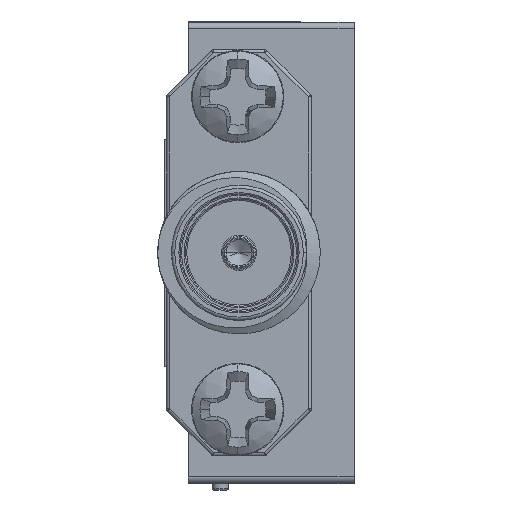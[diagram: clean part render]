
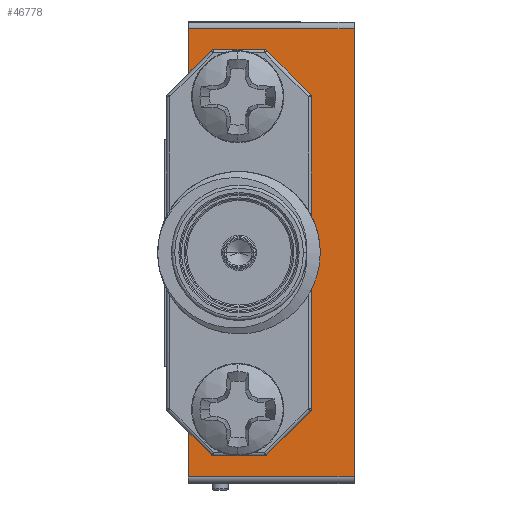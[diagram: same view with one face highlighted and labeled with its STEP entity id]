
A CAD part, left-side view. The second image highlights one B-rep face of the part: STEP entity #46778.
In plain terms, the highlighted planar face has unit normal (-1, 0, 0).
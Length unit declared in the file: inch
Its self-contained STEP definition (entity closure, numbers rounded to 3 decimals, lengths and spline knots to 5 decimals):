
#201 = CARTESIAN_POINT ( 'NONE',  ( -0.54, 0.179, -0.2935 ) ) ;
#595 = CARTESIAN_POINT ( 'NONE',  ( -0.54, 0.107, 0.182 ) ) ;
#727 = VECTOR ( 'NONE', #30343, 39.37008 ) ;
#886 = CARTESIAN_POINT ( 'NONE',  ( -0.54, 0., 0.345 ) ) ;
#1627 = EDGE_LOOP ( 'NONE', ( #36141, #35583, #20110, #45160, #29348, #15555, #49379, #48425 ) ) ;
#1815 = FACE_BOUND ( 'NONE', #37985, .T. ) ;
#2237 = AXIS2_PLACEMENT_3D ( 'NONE', #6749, #49015, #11761 ) ;
#2851 = VECTOR ( 'NONE', #35603, 39.37008 ) ;
#4271 = CIRCLE ( 'NONE', #2237, 0.0525 ) ;
#5802 = VERTEX_POINT ( 'NONE', #23446 ) ;
#6206 = CIRCLE ( 'NONE', #22207, 0.0525 ) ;
#6480 = LINE ( 'NONE', #20838, #2851 ) ;
#6749 = CARTESIAN_POINT ( 'NONE',  ( -0.54, 0.179, -0.241 ) ) ;
#7458 = EDGE_CURVE ( 'NONE', #43268, #46036, #4271, .T. ) ;
#8372 = VECTOR ( 'NONE', #10787, 39.37008 ) ;
#8516 = CARTESIAN_POINT ( 'NONE',  ( -0.54, 0.255, -0.182 ) ) ;
#9488 = CARTESIAN_POINT ( 'NONE',  ( -0.54, 0.255, -0.355 ) ) ;
#10103 = LINE ( 'NONE', #29186, #40769 ) ;
#10787 = DIRECTION ( 'NONE',  ( 0., -1., 0. ) ) ;
#10882 = VERTEX_POINT ( 'NONE', #35365 ) ;
#11382 = CARTESIAN_POINT ( 'NONE',  ( -0.54, 0., -0.355 ) ) ;
#11588 = LINE ( 'NONE', #595, #727 ) ;
#11761 = DIRECTION ( 'NONE',  ( 0., 0., 1. ) ) ;
#12304 = EDGE_CURVE ( 'NONE', #17401, #45001, #54563, .T. ) ;
#12618 = VERTEX_POINT ( 'NONE', #46883 ) ;
#12713 = PLANE ( 'NONE',  #32788 ) ;
#13746 = VECTOR ( 'NONE', #25148, 39.37008 ) ;
#14178 = EDGE_CURVE ( 'NONE', #10882, #29158, #45738, .T. ) ;
#14979 = CARTESIAN_POINT ( 'NONE',  ( -0.54, 0.255, -0.345 ) ) ;
#15555 = ORIENTED_EDGE ( 'NONE', *, *, #61359, .T. ) ;
#15887 = VECTOR ( 'NONE', #28626, 39.37008 ) ;
#16365 = DIRECTION ( 'NONE',  ( 0., 0., 1. ) ) ;
#17017 = VERTEX_POINT ( 'NONE', #45221 ) ;
#17401 = VERTEX_POINT ( 'NONE', #60826 ) ;
#18381 = ORIENTED_EDGE ( 'NONE', *, *, #7458, .F. ) ;
#20110 = ORIENTED_EDGE ( 'NONE', *, *, #55718, .F. ) ;
#20838 = CARTESIAN_POINT ( 'NONE',  ( -0.54, 0.255, 0.345 ) ) ;
#22190 = CIRCLE ( 'NONE', #38149, 0.0525 ) ;
#22207 = AXIS2_PLACEMENT_3D ( 'NONE', #59898, #41065, #16365 ) ;
#22705 = DIRECTION ( 'NONE',  ( 0., 0., -1. ) ) ;
#22807 = VECTOR ( 'NONE', #42792, 39.37008 ) ;
#23446 = CARTESIAN_POINT ( 'NONE',  ( -0.54, 0.255, 0.345 ) ) ;
#23703 = LINE ( 'NONE', #38403, #22807 ) ;
#24024 = EDGE_CURVE ( 'NONE', #45001, #5802, #6480, .T. ) ;
#24727 = VECTOR ( 'NONE', #42659, 39.37008 ) ;
#25148 = DIRECTION ( 'NONE',  ( 0., 0., 1. ) ) ;
#26991 = CARTESIAN_POINT ( 'NONE',  ( -0.54, 0.179, 0.24 ) ) ;
#27992 = LINE ( 'NONE', #42725, #15887 ) ;
#28037 = VERTEX_POINT ( 'NONE', #14979 ) ;
#28584 = VERTEX_POINT ( 'NONE', #8516 ) ;
#28626 = DIRECTION ( 'NONE',  ( 0., 0., 1. ) ) ;
#29158 = VERTEX_POINT ( 'NONE', #38956 ) ;
#29186 = CARTESIAN_POINT ( 'NONE',  ( -0.54, 0.255, -0.355 ) ) ;
#29348 = ORIENTED_EDGE ( 'NONE', *, *, #34301, .F. ) ;
#30343 = DIRECTION ( 'NONE',  ( 0., 1., 0. ) ) ;
#31803 = DIRECTION ( 'NONE',  ( 1., 0., 0. ) ) ;
#32421 = FACE_BOUND ( 'NONE', #58162, .T. ) ;
#32788 = AXIS2_PLACEMENT_3D ( 'NONE', #49743, #31803, #22705 ) ;
#34301 = EDGE_CURVE ( 'NONE', #17017, #53147, #27992, .T. ) ;
#34601 = CARTESIAN_POINT ( 'NONE',  ( -0.54, 0.255, -0.345 ) ) ;
#35365 = CARTESIAN_POINT ( 'NONE',  ( -0.54, 0.179, 0.2925 ) ) ;
#35583 = ORIENTED_EDGE ( 'NONE', *, *, #24024, .T. ) ;
#35603 = DIRECTION ( 'NONE',  ( 0., 1., 0. ) ) ;
#36141 = ORIENTED_EDGE ( 'NONE', *, *, #12304, .T. ) ;
#37366 = EDGE_CURVE ( 'NONE', #29158, #10882, #6206, .T. ) ;
#37985 = EDGE_LOOP ( 'NONE', ( #61144, #59368 ) ) ;
#38149 = AXIS2_PLACEMENT_3D ( 'NONE', #43249, #57021, #46719 ) ;
#38403 = CARTESIAN_POINT ( 'NONE',  ( -0.54, 0.107, -0.182 ) ) ;
#38956 = CARTESIAN_POINT ( 'NONE',  ( -0.54, 0.179, 0.1875 ) ) ;
#39446 = EDGE_CURVE ( 'NONE', #28037, #17401, #48386, .T. ) ;
#40453 = DIRECTION ( 'NONE',  ( 0., 0., 1. ) ) ;
#40769 = VECTOR ( 'NONE', #40453, 39.37008 ) ;
#41065 = DIRECTION ( 'NONE',  ( -1., 0., 0. ) ) ;
#42383 = EDGE_CURVE ( 'NONE', #53147, #12618, #11588, .T. ) ;
#42659 = DIRECTION ( 'NONE',  ( 0., 0., 1. ) ) ;
#42725 = CARTESIAN_POINT ( 'NONE',  ( -0.54, 0.107, 0.182 ) ) ;
#42792 = DIRECTION ( 'NONE',  ( 0., 1., 0. ) ) ;
#43249 = CARTESIAN_POINT ( 'NONE',  ( -0.54, 0.179, -0.241 ) ) ;
#43268 = VERTEX_POINT ( 'NONE', #201 ) ;
#43296 = LINE ( 'NONE', #9488, #24727 ) ;
#44822 = CARTESIAN_POINT ( 'NONE',  ( -0.54, 0.107, 0.182 ) ) ;
#45001 = VERTEX_POINT ( 'NONE', #886 ) ;
#45160 = ORIENTED_EDGE ( 'NONE', *, *, #42383, .F. ) ;
#45221 = CARTESIAN_POINT ( 'NONE',  ( -0.54, 0.107, -0.182 ) ) ;
#45509 = DIRECTION ( 'NONE',  ( -1., 0., 0. ) ) ;
#45738 = CIRCLE ( 'NONE', #46732, 0.0525 ) ;
#46036 = VERTEX_POINT ( 'NONE', #61654 ) ;
#46531 = FACE_OUTER_BOUND ( 'NONE', #1627, .T. ) ;
#46719 = DIRECTION ( 'NONE',  ( 0., 0., 1. ) ) ;
#46732 = AXIS2_PLACEMENT_3D ( 'NONE', #26991, #45509, #60249 ) ;
#46778 = ADVANCED_FACE ( 'NONE', ( #32421, #46531, #1815 ), #12713, .F. ) ;
#46883 = CARTESIAN_POINT ( 'NONE',  ( -0.54, 0.255, 0.182 ) ) ;
#48386 = LINE ( 'NONE', #34601, #8372 ) ;
#48425 = ORIENTED_EDGE ( 'NONE', *, *, #39446, .T. ) ;
#49015 = DIRECTION ( 'NONE',  ( -1., 0., 0. ) ) ;
#49379 = ORIENTED_EDGE ( 'NONE', *, *, #55946, .F. ) ;
#49743 = CARTESIAN_POINT ( 'NONE',  ( -0.54, 0.255, -0.355 ) ) ;
#53147 = VERTEX_POINT ( 'NONE', #44822 ) ;
#54563 = LINE ( 'NONE', #11382, #13746 ) ;
#55718 = EDGE_CURVE ( 'NONE', #12618, #5802, #43296, .T. ) ;
#55946 = EDGE_CURVE ( 'NONE', #28037, #28584, #10103, .T. ) ;
#56126 = ORIENTED_EDGE ( 'NONE', *, *, #58368, .F. ) ;
#57021 = DIRECTION ( 'NONE',  ( -1., 0., 0. ) ) ;
#58162 = EDGE_LOOP ( 'NONE', ( #56126, #18381 ) ) ;
#58368 = EDGE_CURVE ( 'NONE', #46036, #43268, #22190, .T. ) ;
#59368 = ORIENTED_EDGE ( 'NONE', *, *, #37366, .F. ) ;
#59898 = CARTESIAN_POINT ( 'NONE',  ( -0.54, 0.179, 0.24 ) ) ;
#60249 = DIRECTION ( 'NONE',  ( 0., 0., 1. ) ) ;
#60826 = CARTESIAN_POINT ( 'NONE',  ( -0.54, 0., -0.345 ) ) ;
#61144 = ORIENTED_EDGE ( 'NONE', *, *, #14178, .F. ) ;
#61359 = EDGE_CURVE ( 'NONE', #17017, #28584, #23703, .T. ) ;
#61654 = CARTESIAN_POINT ( 'NONE',  ( -0.54, 0.179, -0.1885 ) ) ;
